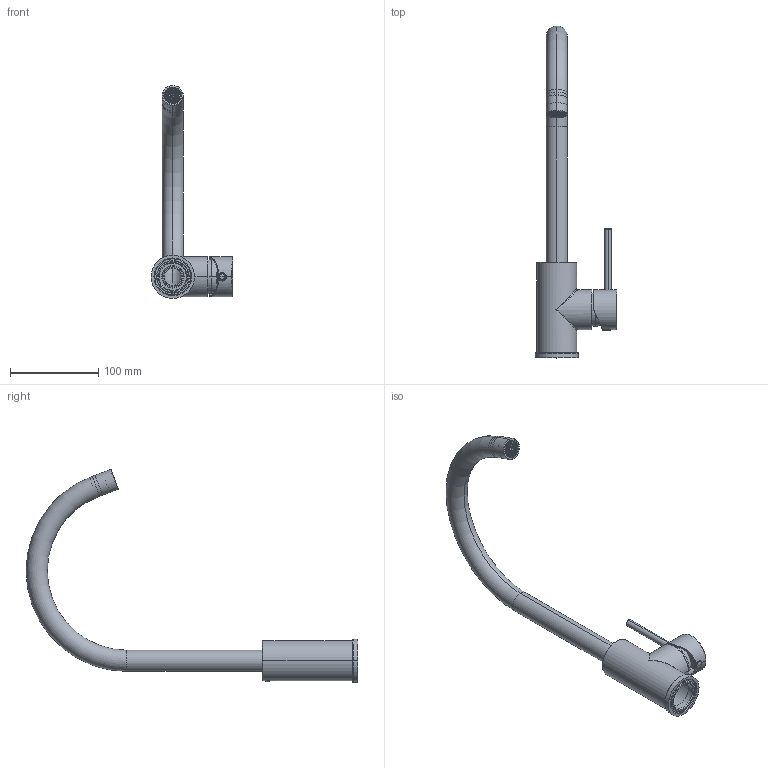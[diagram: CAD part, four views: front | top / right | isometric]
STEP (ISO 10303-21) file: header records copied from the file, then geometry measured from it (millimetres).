
FILE_DESCRIPTION((''),'2;1');
FILE_NAME('GL-963002_ASM','2025-03-29T11:20:34',('S'),(''),'CREO PARAMETRIC BY PTC INC, 2021023','CREO PARAMETRIC BY PTC INC, 2021023','');
FILE_SCHEMA(('AUTOMOTIVE_DESIGN { 1 0 10303 214 1 1 1 1 }'));
Length unit declared in the file: millimetre
Products named in the file (24): 963002_A; 963002_A_ASM; 3FX-001070-MMA-1_AF0; 3FX-001070-MAA-2_AF0; 3FX-001070-MAA_AF0_ASM; 3ZG-010028-JCR_AF0; 43800600; 963002_AF_ASM; 3BS-001001-JBN7_AF0; 3SN-001001-MCR_AF0; 3LS-001064-JAA_AF0; 3BS-001019-JBN7_AF0; 458002_AF000_ASM; _A; _AF; 3WD-001014-MAA_AF0; 3SN-001003-NCR_AF0; 962002_AF00; 22X2D5_AF0; 22X2D5_AF1; 3LS-001064-JAA_AF1; 20D8X16X2_AF0; GL-963002_ASM
Assembly tree (23 placements, depth 4):
  GL-963002_ASM
    963002_AF_ASM
      963002_A_ASM
        963002_A
      3FX-001070-MAA_AF0_ASM
        3FX-001070-MMA-1_AF0
        3FX-001070-MAA-2_AF0
      3ZG-010028-JCR_AF0
      43800600
    963002_A
    458002_AF000_ASM
      3BS-001001-JBN7_AF0
      3SN-001001-MCR_AF0
      3LS-001064-JAA_AF0
      3BS-001019-JBN7_AF0
    _A
    _AF
    3WD-001014-MAA_AF0
    3SN-001003-NCR_AF0
    962002_AF00
    22X2D5_AF0
    22X2D5_AF1
    3LS-001064-JAA_AF1
    20D8X16X2_AF0
Bounding box: 92.4 x 375 x 240.69 mm (x, y, z)
Volume: 80829.3 mm3; surface area: 124329.9 mm2
Topology: 11 solids, 11 shells, 851 faces, 2585 edges, 1695 vertices
Faces by surface type: cylinder 515, plane 255, cone 37, torus 34, bspline 6, sphere 2, revolution 2
Entity records: 33701 total; most frequent: CARTESIAN_POINT 6600, DIRECTION 5668, ORIENTED_EDGE 5162, EDGE_CURVE 2581, AXIS2_PLACEMENT_3D 2256, VERTEX_POINT 1695, CIRCLE 1355, EDGE_LOOP 1340
